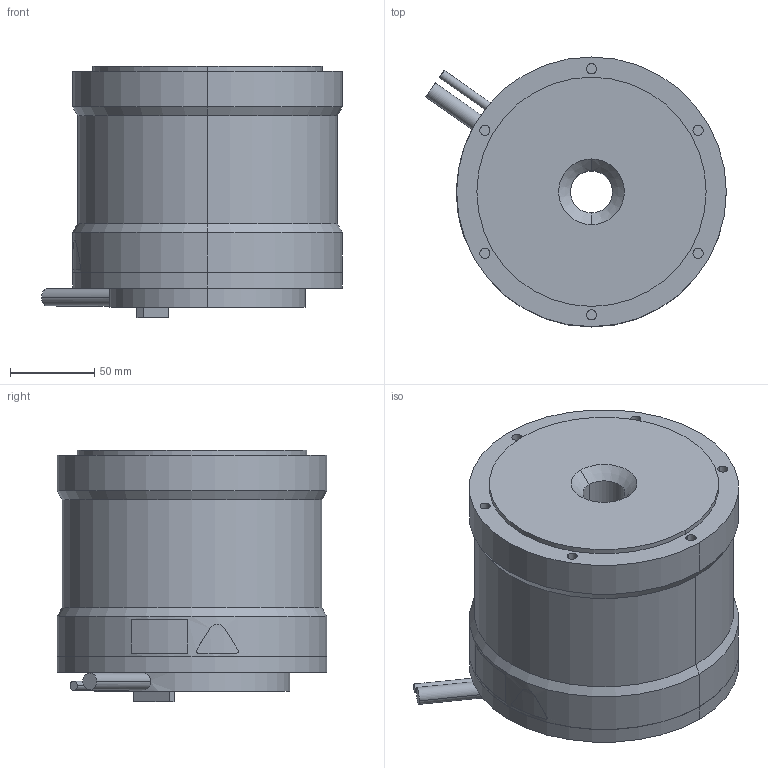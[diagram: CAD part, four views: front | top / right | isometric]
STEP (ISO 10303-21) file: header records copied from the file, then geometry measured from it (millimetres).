
FILE_DESCRIPTION (( 'STEP AP203' ), '1' );
FILE_NAME ('sgm7d_24g_c4_.STEP', '2016-02-22T08:17:29', ( '' ), ( '' ), 'SwSTEP 2.0', 'SolidWorks 2010', '' );
FILE_SCHEMA (( 'CONFIG_CONTROL_DESIGN' ));
Length unit declared in the file: millimetre
Products named in the file (1): sgm7d_24g_c4_
Bounding box: 178.36 x 160 x 149 mm (x, y, z)
Volume: 2574413 mm3; surface area: 128281.6 mm2
Topology: 1 solids, 1 shells, 188 faces, 425 edges, 280 vertices
Faces by surface type: cylinder 106, plane 71, cone 6, bspline 5
Entity records: 5792 total; most frequent: CARTESIAN_POINT 1327, DIRECTION 985, ORIENTED_EDGE 850, EDGE_CURVE 425, AXIS2_PLACEMENT_3D 396, VERTEX_POINT 280, EDGE_LOOP 231, CIRCLE 212
